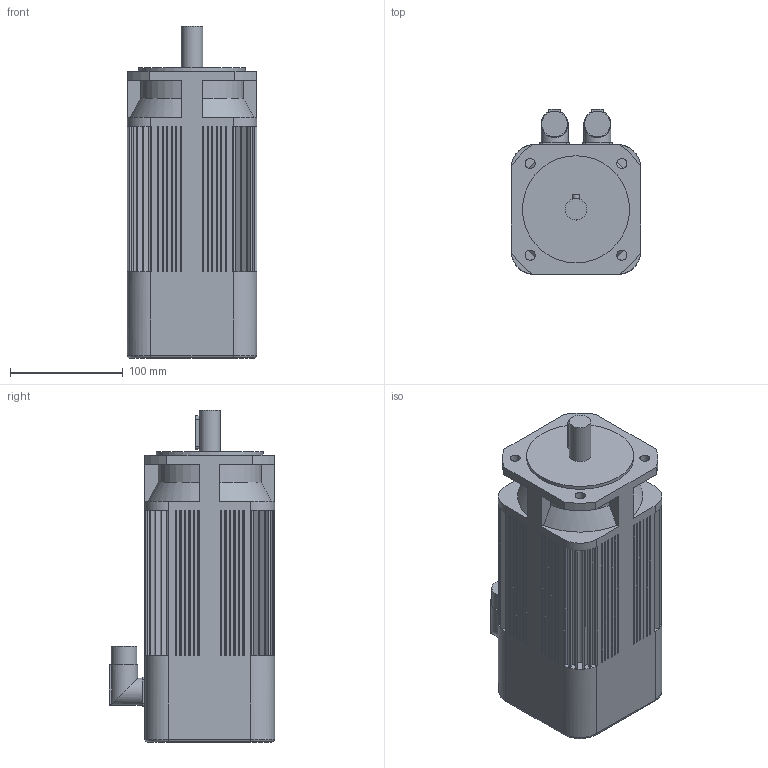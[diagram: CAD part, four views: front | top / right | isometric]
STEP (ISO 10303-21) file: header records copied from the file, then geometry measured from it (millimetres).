
FILE_DESCRIPTION(/* description */ (''),/* implementation_level */ '2;1');
FILE_NAME(/* name */ '\\Lafnas01\disegni\Archivi Lafert\3D\CAD 3D\MODELLI\Assiemi clienti\Serad\Modelli 3D Serad\B63I\Resolver\Res With Brake\B6304Ixx6B052033.ipt.stp',/* time_stamp */ '2015-09-07T10:50:41+02:00',/* author */ ('Pastrello Ylenia'),/* organization */ (''),/* preprocessor_version */ 'ST-DEVELOPER v15.6',/* originating_system */ 'Autodesk Inventor 2015',/* authorisation */ '');
FILE_SCHEMA (('AUTOMOTIVE_DESIGN { 1 0 10303 214 3 1 1 }'));
Length unit declared in the file: millimetre
Products named in the file (1): B6304Ixx6B052033
Bounding box: 115 x 146.5 x 294.5 mm (x, y, z)
Volume: 3130753.4 mm3; surface area: 185094.1 mm2
Topology: 1 solids, 1 shells, 445 faces, 1091 edges, 704 vertices
Faces by surface type: plane 351, cylinder 86, cone 4, torus 4
Full cylindrical faces by diameter (mm): 9 x4, 19 x1, 22.7 x2, 24 x2, 95 x1
Entity records: 13008 total; most frequent: CARTESIAN_POINT 2276, DIRECTION 2254, ORIENTED_EDGE 2156, EDGE_CURVE 1078, LINE 774, VECTOR 774, AXIS2_PLACEMENT_3D 740, VERTEX_POINT 702
